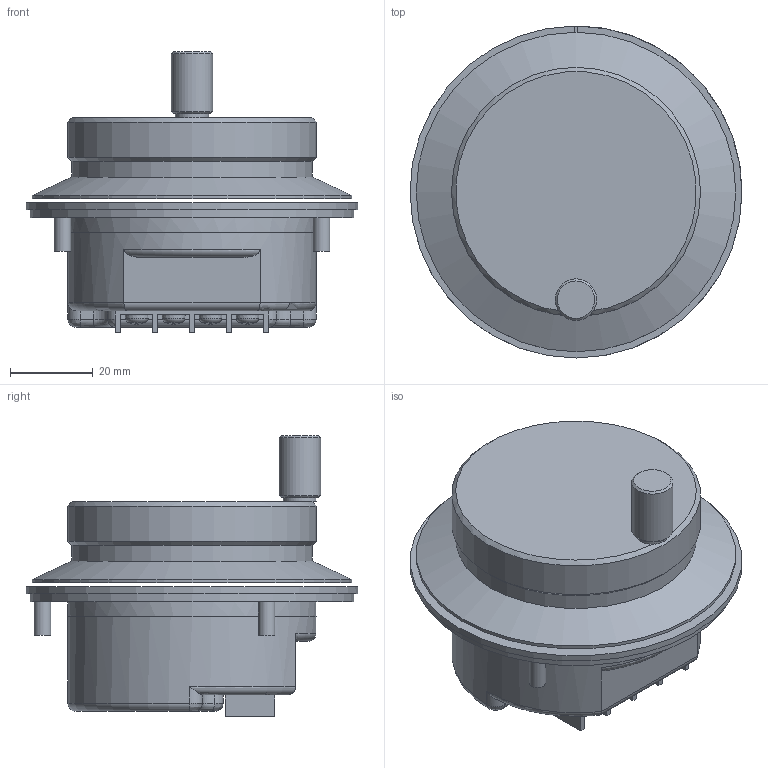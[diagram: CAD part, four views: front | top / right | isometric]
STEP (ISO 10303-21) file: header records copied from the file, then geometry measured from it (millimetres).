
FILE_DESCRIPTION(('OSM-2GA'),'2;1');
FILE_NAME('C:\Users\user\Documents\Inventor\配布用外径データ\配布用STEP\OSM-2GA.stp','2019-05-09T14:18:58',('Nemicon Corp.'),('Nemicon Corp.'),'Autodesk Inventor 2011','Autodesk Inventor 2011','');
FILE_SCHEMA(('AUTOMOTIVE_DESIGN { 1 0 10303 214 1 1 1 1 }'));
Length unit declared in the file: millimetre
Products named in the file (3): OSM-2GA; OSM-2GA_body; JIS B 1111 H - メートル A M3 x 6 - H
Assembly tree (5 placements, depth 2):
  OSM-2GA
    OSM-2GA_body
    JIS B 1111 H - メートル A M3 x 6 - H  x4
Bounding box: 80 x 80 x 67.7 mm (x, y, z)
Volume: 147513.6 mm3; surface area: 30346.9 mm2
Topology: 6 solids, 6 shells, 209 faces, 510 edges, 325 vertices
Faces by surface type: plane 84, cone 57, cylinder 34, torus 26, bspline 4, sphere 4
Full cylindrical faces by diameter (mm): 2.459 x4, 2.693 x4, 3 x4, 4 x3, 8 x1, 10 x1, 58 x1, 59.8 x1, 60 x2, 77 x1, 78 x1, 80 x1
Entity records: 3589 total; most frequent: CARTESIAN_POINT 917, DIRECTION 554, ORIENTED_EDGE 482, EDGE_CURVE 241, AXIS2_PLACEMENT_3D 222, VERTEX_POINT 169, EDGE_LOOP 160, FACE_OUTER_BOUND 119
